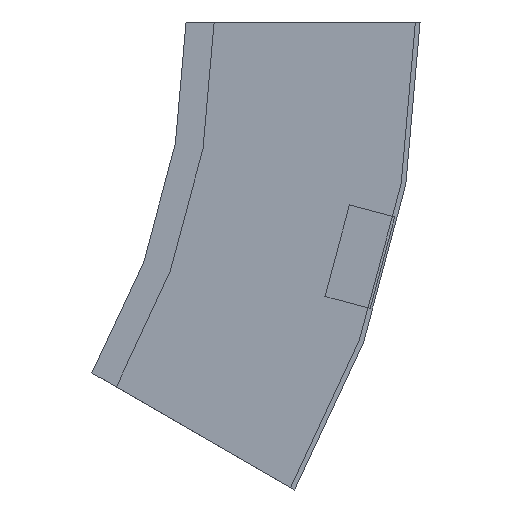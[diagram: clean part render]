
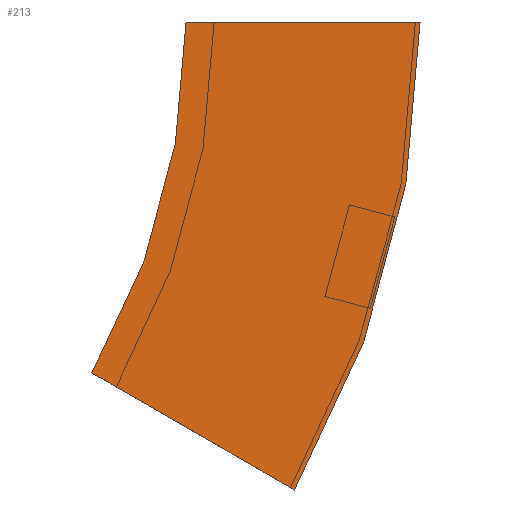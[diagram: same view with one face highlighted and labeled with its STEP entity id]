
A CAD part, left-side view. The second image highlights one B-rep face of the part: STEP entity #213.
In plain terms, the highlighted planar face has unit normal (-1, 0, 0) as drawn and (1, 0, 0) by its records, which use the part's own axes.
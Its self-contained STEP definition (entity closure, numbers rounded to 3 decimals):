
#7 = VECTOR ( 'NONE', #13, 1000. ) ;
#11 = EDGE_LOOP ( 'NONE', ( #479, #484, #464, #200 ) ) ;
#13 = DIRECTION ( 'NONE',  ( 0., 1., 0. ) ) ;
#20 = CIRCLE ( 'NONE', #509, 300. ) ;
#34 = VERTEX_POINT ( 'NONE', #86 ) ;
#46 = CARTESIAN_POINT ( 'NONE',  ( 0., -100., 0. ) ) ;
#59 = CARTESIAN_POINT ( 'NONE',  ( 0., -46.41, -200. ) ) ;
#86 = CARTESIAN_POINT ( 'NONE',  ( 0., -46.41, -200. ) ) ;
#100 = CARTESIAN_POINT ( 'NONE',  ( 0., 0., 0. ) ) ;
#125 = CARTESIAN_POINT ( 'NONE',  ( 0., 300., 0. ) ) ;
#181 = DIRECTION ( 'NONE',  ( 1., 0., 0. ) ) ;
#200 = ORIENTED_EDGE ( 'NONE', *, *, #428, .T. ) ;
#213 = ADVANCED_FACE ( 'NONE', ( #344 ), #519, .F. ) ;
#219 = DIRECTION ( 'NONE',  ( 1., 0., 0. ) ) ;
#232 = DIRECTION ( 'NONE',  ( -1., 0., 0. ) ) ;
#258 = LINE ( 'NONE', #59, #387 ) ;
#271 = LINE ( 'NONE', #400, #7 ) ;
#283 = EDGE_CURVE ( 'NONE', #320, #285, #20, .T. ) ;
#285 = VERTEX_POINT ( 'NONE', #288 ) ;
#288 = CARTESIAN_POINT ( 'NONE',  ( 0., 40.192, -150. ) ) ;
#291 = VERTEX_POINT ( 'NONE', #46 ) ;
#309 = EDGE_CURVE ( 'NONE', #291, #34, #325, .T. ) ;
#317 = AXIS2_PLACEMENT_3D ( 'NONE', #125, #219, #561 ) ;
#320 = VERTEX_POINT ( 'NONE', #100 ) ;
#325 = CIRCLE ( 'NONE', #317, 400. ) ;
#344 = FACE_OUTER_BOUND ( 'NONE', #11, .T. ) ;
#347 = CARTESIAN_POINT ( 'NONE',  ( 0., 300., 0. ) ) ;
#387 = VECTOR ( 'NONE', #477, 1000. ) ;
#400 = CARTESIAN_POINT ( 'NONE',  ( 0., -100., 0. ) ) ;
#404 = AXIS2_PLACEMENT_3D ( 'NONE', #448, #232, #536 ) ;
#428 = EDGE_CURVE ( 'NONE', #34, #285, #258, .T. ) ;
#433 = DIRECTION ( 'NONE',  ( 0., -1., 0. ) ) ;
#448 = CARTESIAN_POINT ( 'NONE',  ( 0., -100., 0. ) ) ;
#464 = ORIENTED_EDGE ( 'NONE', *, *, #309, .T. ) ;
#477 = DIRECTION ( 'NONE',  ( 0., 0.866, 0.5 ) ) ;
#479 = ORIENTED_EDGE ( 'NONE', *, *, #283, .F. ) ;
#484 = ORIENTED_EDGE ( 'NONE', *, *, #492, .F. ) ;
#492 = EDGE_CURVE ( 'NONE', #291, #320, #271, .T. ) ;
#509 = AXIS2_PLACEMENT_3D ( 'NONE', #347, #181, #433 ) ;
#519 = PLANE ( 'NONE',  #404 ) ;
#536 = DIRECTION ( 'NONE',  ( 0., 0., 1. ) ) ;
#561 = DIRECTION ( 'NONE',  ( 0., -1., 0. ) ) ;
